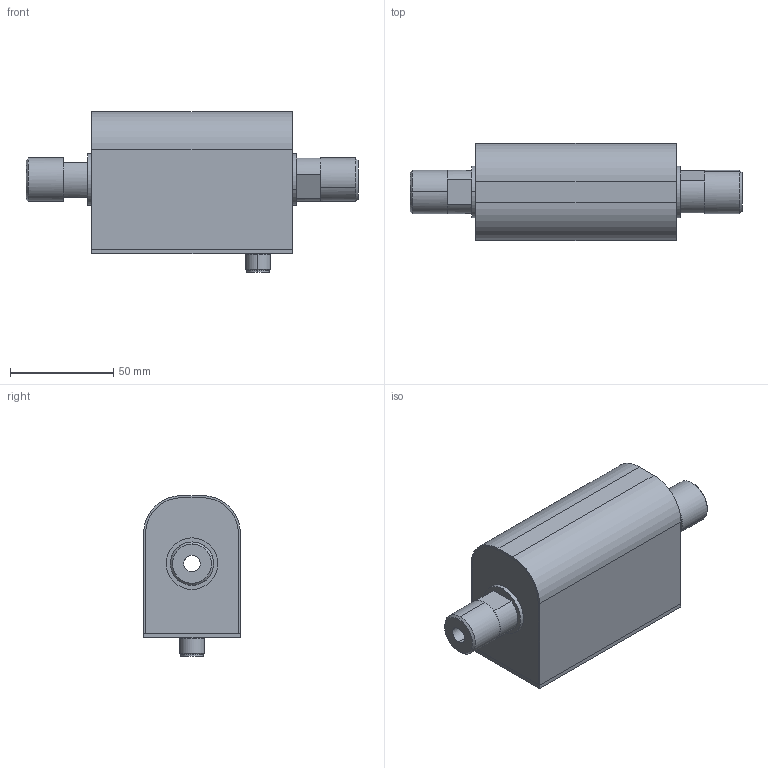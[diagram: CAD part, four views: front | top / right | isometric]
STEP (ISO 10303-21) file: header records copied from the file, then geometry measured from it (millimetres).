
FILE_DESCRIPTION (( 'STEP AP203' ), '1' );
FILE_NAME ('F32_Thread_DN8.STEP', '2019-10-03T16:50:16', ( 'Uživatel systému Windows' ), ( '' ), 'SwSTEP 2.0', 'SolidWorks 2017', '' );
FILE_SCHEMA (( 'CONFIG_CONTROL_DESIGN' ));
Length unit declared in the file: millimetre
Products named in the file (8): FPW_Svìtlovod; FPW_Svìtlovod2; Konektor M12_8pin; F32-11-20-3_2019 (F32 G1_2 šroubení DN4-15); F32_Thread_DN8; F32-130-3-3_2019(F32DN4-18 Výpylek èela); F32-90-1-3_2018(F32DN4-20_Kryt Plech_r2); F32-90-3-2_2019(F32 DN4-18 閣咜ek Plech bez displeje )
Assembly tree (9 placements, depth 2):
  F32_Thread_DN8
    F32-130-3-3_2019(F32DN4-18 Výpylek èela)  x2
    F32-90-1-3_2018(F32DN4-20_Kryt Plech_r2)
    F32-90-3-2_2019(F32 DN4-18 閣咜ek Plech bez displeje )
    FPW_Svìtlovod
    FPW_Svìtlovod2
    Konektor M12_8pin
    F32-11-20-3_2019 (F32 G1_2 šroubení DN4-15)  x2
Bounding box: 161 x 47 x 78 mm (x, y, z)
Volume: 82571.3 mm3; surface area: 70407.9 mm2
Topology: 9 solids, 9 shells, 513 faces, 1322 edges, 860 vertices
Faces by surface type: plane 324, cylinder 139, cone 22, bspline 20, torus 8
Entity records: 15327 total; most frequent: CARTESIAN_POINT 2847, ORIENTED_EDGE 2408, DIRECTION 2389, EDGE_CURVE 1204, VECTOR 897, LINE 897, VERTEX_POINT 794, AXIS2_PLACEMENT_3D 746
